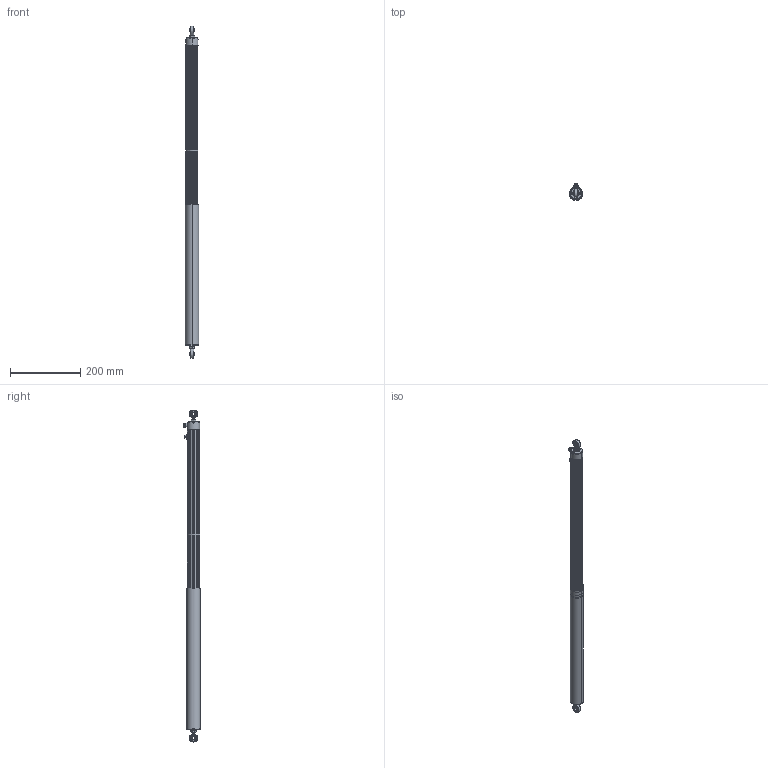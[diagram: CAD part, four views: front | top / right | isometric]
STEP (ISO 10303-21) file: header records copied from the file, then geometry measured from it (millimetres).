
FILE_DESCRIPTION (( 'STEP AP214' ), '1' );
FILE_NAME ('0360.STEP', '2009-01-27T10:11:44', ( 'novotechnik' ), ( 'novotechnik' ), 'SwSTEP 2.0', 'SolidWorks 2009', '' );
FILE_SCHEMA (( 'AUTOMOTIVE_DESIGN' ));
Length unit declared in the file: millimetre
Products named in the file (3): 0360; 0360_Bew
Assembly tree (2 placements, depth 2):
  0360
    0360_Bew
    0360
Bounding box: 38 x 46.6 x 944.6 mm (x, y, z)
Volume: 566908.5 mm3; surface area: 207256.9 mm2
Topology: 34 solids, 34 shells, 1092 faces, 2750 edges, 1748 vertices
Faces by surface type: cylinder 451, plane 338, cone 173, bspline 70, torus 42, sphere 18
Entity records: 48018 total; most frequent: CARTESIAN_POINT 9403, DIRECTION 5760, ORIENTED_EDGE 5486, EDGE_CURVE 2743, AXIS2_PLACEMENT_3D 2278, VERTEX_POINT 1745, CIRCLE 1251, VECTOR 1204
